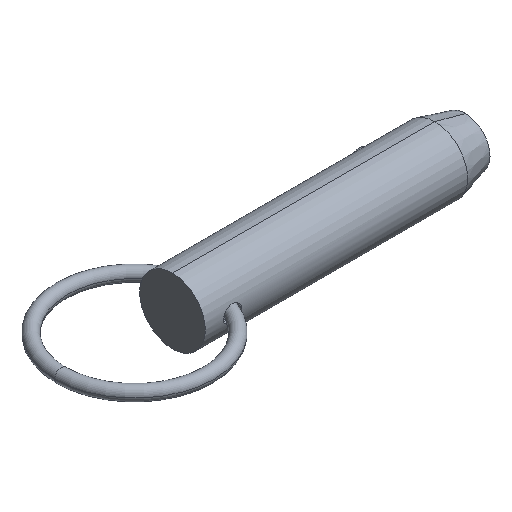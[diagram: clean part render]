
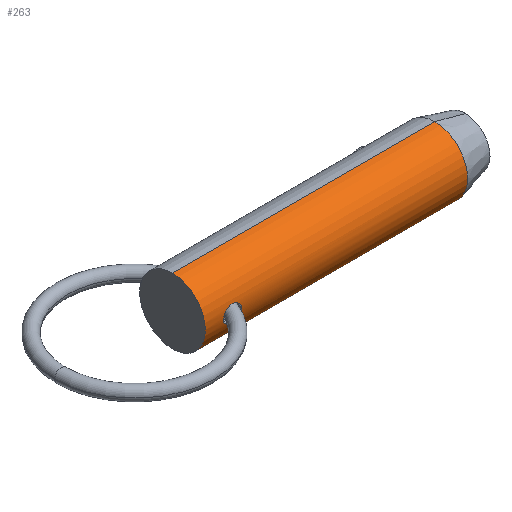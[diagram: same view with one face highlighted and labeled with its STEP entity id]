
A CAD part, isometric view. The second image highlights one B-rep face of the part: STEP entity #263.
In plain terms, the highlighted cylindrical face has radius 7.11 mm (diameter 14.22 mm), a partial arc.
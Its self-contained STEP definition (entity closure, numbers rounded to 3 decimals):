
#6 = CARTESIAN_POINT ( 'NONE',  ( 7.92, -7.11, 0.248 ) ) ;
#39 = VERTEX_POINT ( 'NONE', #881 ) ;
#51 = CARTESIAN_POINT ( 'NONE',  ( 4.8, -6.969, 1.419 ) ) ;
#57 = CARTESIAN_POINT ( 'NONE',  ( 0., 0., -7.11 ) ) ;
#61 = CARTESIAN_POINT ( 'NONE',  ( 7.857, -7.094, -0.489 ) ) ;
#62 = VERTEX_POINT ( 'NONE', #424 ) ;
#68 = EDGE_LOOP ( 'NONE', ( #817, #199 ) ) ;
#71 = CYLINDRICAL_SURFACE ( 'NONE', #734, 7.11 ) ;
#76 = ORIENTED_EDGE ( 'NONE', *, *, #241, .T. ) ;
#79 = CARTESIAN_POINT ( 'NONE',  ( 7.718, -7.062, 0.836 ) ) ;
#95 = CARTESIAN_POINT ( 'NONE',  ( 6.821, -6.918, -1.64 ) ) ;
#100 = CARTESIAN_POINT ( 'NONE',  ( 6.467, -6.89, -1.756 ) ) ;
#105 = CARTESIAN_POINT ( 'NONE',  ( 0., 0., 7.11 ) ) ;
#111 = CARTESIAN_POINT ( 'NONE',  ( 5.485, -6.903, 1.705 ) ) ;
#120 = CARTESIAN_POINT ( 'NONE',  ( 4.513, -7.01, 1.19 ) ) ;
#122 = B_SPLINE_CURVE_WITH_KNOTS ( 'NONE', 3,
 ( #141, #332, #602, #61, #264, #532, #403, #675, #337, #290, #95, #100, #702, #496, #642, #358, #548, #765, #233, #632, #485, #561, #236, #626, #365, #356, #417, #157 ),
 .UNSPECIFIED., .F., .F.,
 ( 4, 2, 2, 2, 2, 2, 2, 2, 2, 2, 2, 2, 2, 4 ),
 ( 0.006, 0.007, 0.007, 0.008, 0.008, 0.009, 0.009, 0.01, 0.01, 0.01, 0.011, 0.011, 0.011, 0.012 ),
 .UNSPECIFIED. ) ;
#123 = DIRECTION ( 'NONE',  ( 0., 0., -1. ) ) ;
#141 = CARTESIAN_POINT ( 'NONE',  ( 7.92, -7.11, 0. ) ) ;
#147 = VECTOR ( 'NONE', #571, 1000. ) ;
#157 = CARTESIAN_POINT ( 'NONE',  ( 3.936, -7.11, 0. ) ) ;
#170 = ORIENTED_EDGE ( 'NONE', *, *, #467, .T. ) ;
#179 = DIRECTION ( 'NONE',  ( 1., 0., 0. ) ) ;
#183 = CARTESIAN_POINT ( 'NONE',  ( 5.365, -6.911, 1.67 ) ) ;
#199 = ORIENTED_EDGE ( 'NONE', *, *, #402, .T. ) ;
#206 = VERTEX_POINT ( 'NONE', #57 ) ;
#209 = FACE_OUTER_BOUND ( 'NONE', #858, .T. ) ;
#215 = EDGE_CURVE ( 'NONE', #39, #62, #550, .T. ) ;
#230 = CIRCLE ( 'NONE', #451, 7.11 ) ;
#233 = CARTESIAN_POINT ( 'NONE',  ( 5.019, -6.944, -1.531 ) ) ;
#236 = CARTESIAN_POINT ( 'NONE',  ( 4.421, -7.025, -1.103 ) ) ;
#241 = EDGE_CURVE ( 'NONE', #705, #206, #407, .T. ) ;
#263 = ADVANCED_FACE ( 'NONE', ( #209, #751 ), #71, .T. ) ;
#264 = CARTESIAN_POINT ( 'NONE',  ( 7.819, -7.085, -0.608 ) ) ;
#274 = DIRECTION ( 'NONE',  ( 1., 0., 0. ) ) ;
#290 = CARTESIAN_POINT ( 'NONE',  ( 6.933, -6.93, -1.59 ) ) ;
#320 = CARTESIAN_POINT ( 'NONE',  ( 4.188, -7.064, 0.819 ) ) ;
#324 = CARTESIAN_POINT ( 'NONE',  ( 3.936, -7.11, 0. ) ) ;
#328 = CARTESIAN_POINT ( 'NONE',  ( 7.429, -7.003, 1.234 ) ) ;
#332 = CARTESIAN_POINT ( 'NONE',  ( 7.92, -7.11, -0.124 ) ) ;
#337 = CARTESIAN_POINT ( 'NONE',  ( 7.147, -6.957, -1.468 ) ) ;
#344 = CARTESIAN_POINT ( 'NONE',  ( 7.657, -7.048, 0.943 ) ) ;
#356 = CARTESIAN_POINT ( 'NONE',  ( 4.007, -7.096, -0.494 ) ) ;
#358 = CARTESIAN_POINT ( 'NONE',  ( 5.481, -6.903, -1.704 ) ) ;
#365 = CARTESIAN_POINT ( 'NONE',  ( 4.186, -7.064, -0.815 ) ) ;
#385 = CARTESIAN_POINT ( 'NONE',  ( 5.019, -6.942, 1.541 ) ) ;
#388 = LINE ( 'NONE', #789, #147 ) ;
#402 = EDGE_CURVE ( 'NONE', #62, #39, #122, .T. ) ;
#403 = CARTESIAN_POINT ( 'NONE',  ( 7.522, -7.018, -1.15 ) ) ;
#407 = CIRCLE ( 'NONE', #761, 7.11 ) ;
#414 = DIRECTION ( 'NONE',  ( 0., 0., -1. ) ) ;
#417 = CARTESIAN_POINT ( 'NONE',  ( 3.936, -7.11, -0.248 ) ) ;
#424 = CARTESIAN_POINT ( 'NONE',  ( 7.92, -7.11, 0. ) ) ;
#451 = AXIS2_PLACEMENT_3D ( 'NONE', #518, #179, #123 ) ;
#455 = CARTESIAN_POINT ( 'NONE',  ( 6.818, -6.918, 1.641 ) ) ;
#467 = EDGE_CURVE ( 'NONE', #206, #672, #647, .T. ) ;
#469 = CARTESIAN_POINT ( 'NONE',  ( 0., 0., 0. ) ) ;
#485 = CARTESIAN_POINT ( 'NONE',  ( 4.701, -6.983, -1.341 ) ) ;
#496 = CARTESIAN_POINT ( 'NONE',  ( 5.846, -6.886, -1.77 ) ) ;
#512 = CARTESIAN_POINT ( 'NONE',  ( 4.007, -7.096, 0.495 ) ) ;
#518 = CARTESIAN_POINT ( 'NONE',  ( 56.836, 0., 0. ) ) ;
#532 = CARTESIAN_POINT ( 'NONE',  ( 7.67, -7.05, -0.946 ) ) ;
#540 = CARTESIAN_POINT ( 'NONE',  ( 7.513, -7.019, 1.141 ) ) ;
#544 = ORIENTED_EDGE ( 'NONE', *, *, #633, .F. ) ;
#548 = CARTESIAN_POINT ( 'NONE',  ( 5.361, -6.912, -1.669 ) ) ;
#550 = B_SPLINE_CURVE_WITH_KNOTS ( 'NONE', 3,
 ( #324, #597, #512, #320, #725, #785, #120, #51, #385, #183, #111, #861, #661, #870, #591, #455, #874, #813, #613, #328, #540, #344, #79, #747, #6, #616 ),
 .UNSPECIFIED., .F., .F.,
 ( 4, 2, 2, 2, 2, 2, 2, 2, 2, 2, 2, 2, 4 ),
 ( 0., 0.001, 0.001, 0.002, 0.003, 0.003, 0.003, 0.004, 0.004, 0.005, 0.005, 0.006, 0.006 ),
 .UNSPECIFIED. ) ;
#556 = CARTESIAN_POINT ( 'NONE',  ( 0., 0., -7.11 ) ) ;
#561 = CARTESIAN_POINT ( 'NONE',  ( 4.509, -7.011, -1.187 ) ) ;
#571 = DIRECTION ( 'NONE',  ( 1., 0., 0. ) ) ;
#591 = CARTESIAN_POINT ( 'NONE',  ( 6.469, -6.89, 1.755 ) ) ;
#597 = CARTESIAN_POINT ( 'NONE',  ( 3.936, -7.11, 0.248 ) ) ;
#598 = ORIENTED_EDGE ( 'NONE', *, *, #666, .F. ) ;
#602 = CARTESIAN_POINT ( 'NONE',  ( 7.907, -7.107, -0.247 ) ) ;
#604 = VERTEX_POINT ( 'NONE', #729 ) ;
#607 = DIRECTION ( 'NONE',  ( 0., 0., -1. ) ) ;
#609 = VECTOR ( 'NONE', #825, 1000. ) ;
#613 = CARTESIAN_POINT ( 'NONE',  ( 7.246, -6.972, 1.397 ) ) ;
#616 = CARTESIAN_POINT ( 'NONE',  ( 7.92, -7.11, 0. ) ) ;
#626 = CARTESIAN_POINT ( 'NONE',  ( 4.259, -7.051, -0.917 ) ) ;
#632 = CARTESIAN_POINT ( 'NONE',  ( 4.805, -6.969, -1.41 ) ) ;
#633 = EDGE_CURVE ( 'NONE', #604, #672, #230, .T. ) ;
#642 = CARTESIAN_POINT ( 'NONE',  ( 5.723, -6.89, -1.754 ) ) ;
#647 = LINE ( 'NONE', #556, #609 ) ;
#661 = CARTESIAN_POINT ( 'NONE',  ( 5.849, -6.886, 1.77 ) ) ;
#666 = EDGE_CURVE ( 'NONE', #705, #604, #388, .T. ) ;
#672 = VERTEX_POINT ( 'NONE', #793 ) ;
#675 = CARTESIAN_POINT ( 'NONE',  ( 7.248, -6.972, -1.395 ) ) ;
#684 = CARTESIAN_POINT ( 'NONE',  ( 0., 0., 0. ) ) ;
#702 = CARTESIAN_POINT ( 'NONE',  ( 6.218, -6.882, -1.786 ) ) ;
#705 = VERTEX_POINT ( 'NONE', #105 ) ;
#725 = CARTESIAN_POINT ( 'NONE',  ( 4.261, -7.051, 0.92 ) ) ;
#729 = CARTESIAN_POINT ( 'NONE',  ( 56.836, 0., 7.11 ) ) ;
#733 = DIRECTION ( 'NONE',  ( 1., 0., 0. ) ) ;
#734 = AXIS2_PLACEMENT_3D ( 'NONE', #469, #274, #607 ) ;
#747 = CARTESIAN_POINT ( 'NONE',  ( 7.869, -7.096, 0.496 ) ) ;
#751 = FACE_BOUND ( 'NONE', #68, .T. ) ;
#761 = AXIS2_PLACEMENT_3D ( 'NONE', #684, #733, #414 ) ;
#765 = CARTESIAN_POINT ( 'NONE',  ( 5.13, -6.932, -1.582 ) ) ;
#785 = CARTESIAN_POINT ( 'NONE',  ( 4.424, -7.024, 1.106 ) ) ;
#789 = CARTESIAN_POINT ( 'NONE',  ( 0., 0., 7.11 ) ) ;
#793 = CARTESIAN_POINT ( 'NONE',  ( 56.836, 0., -7.11 ) ) ;
#813 = CARTESIAN_POINT ( 'NONE',  ( 7.147, -6.957, 1.468 ) ) ;
#817 = ORIENTED_EDGE ( 'NONE', *, *, #215, .T. ) ;
#825 = DIRECTION ( 'NONE',  ( 1., 0., 0. ) ) ;
#858 = EDGE_LOOP ( 'NONE', ( #598, #76, #170, #544 ) ) ;
#861 = CARTESIAN_POINT ( 'NONE',  ( 5.727, -6.89, 1.755 ) ) ;
#870 = CARTESIAN_POINT ( 'NONE',  ( 6.217, -6.882, 1.786 ) ) ;
#874 = CARTESIAN_POINT ( 'NONE',  ( 6.932, -6.93, 1.591 ) ) ;
#881 = CARTESIAN_POINT ( 'NONE',  ( 3.936, -7.11, 0. ) ) ;
